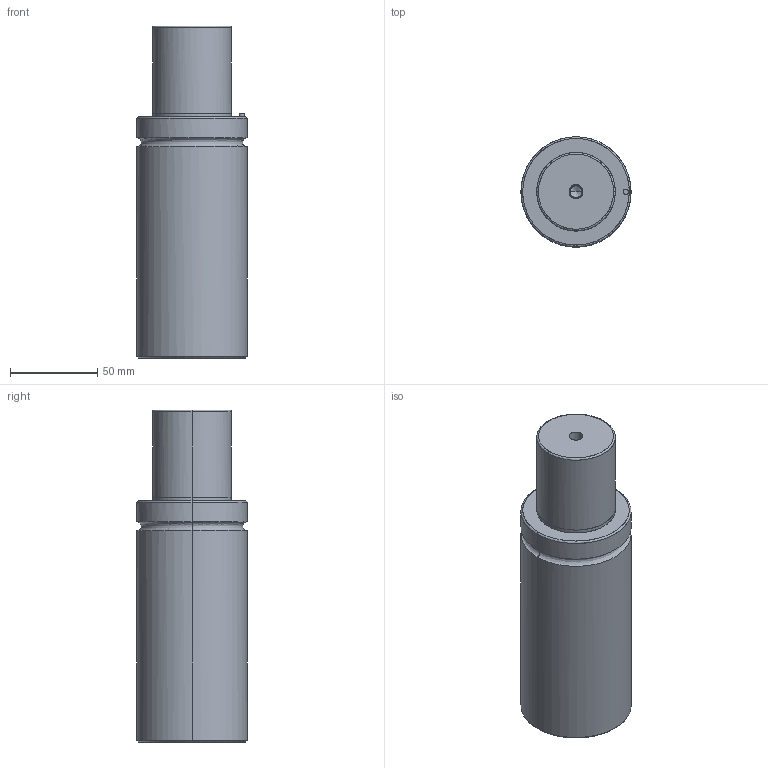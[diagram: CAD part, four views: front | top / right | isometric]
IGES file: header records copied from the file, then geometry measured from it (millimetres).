
Global section: file name: E:\UnigraphicsGraphicData\MISUMI_PRESS-PARTS\IGES\3d_gsm63-50_03947_r00.igs; native system: NX V5.0; preprocessor: UGS NX IGES V5.0; author: MISUMI; date: 20110105.160819; units: millimetre
Bounding box: 63 x 62.98 x 190 mm (x, y, z)
Surface area: 42585.1 mm2 (no closed solid volume)
Topology: 0 solids, 0 shells, 50 faces, 344 edges, 336 vertices
Faces by surface type: bspline 50
